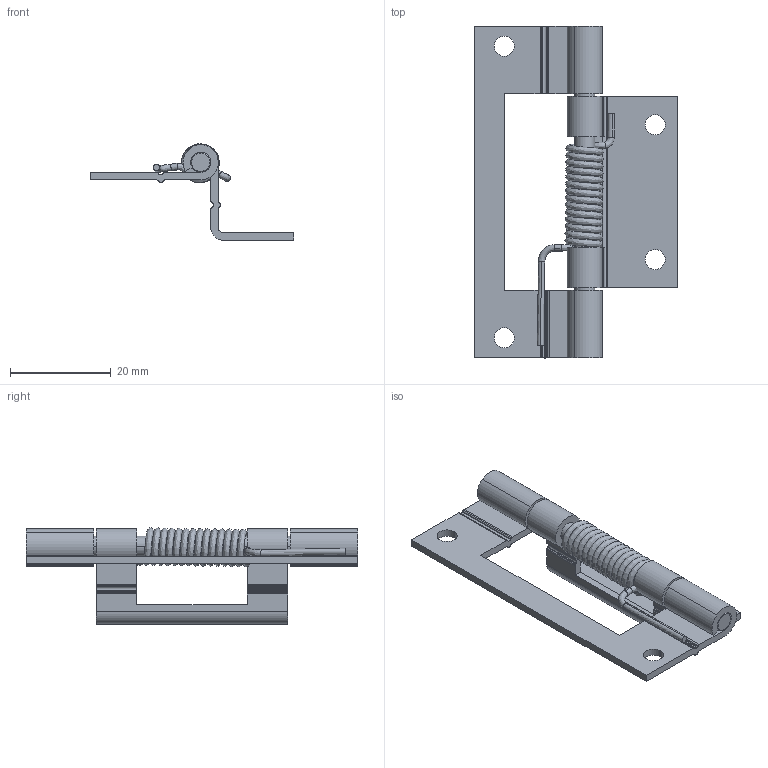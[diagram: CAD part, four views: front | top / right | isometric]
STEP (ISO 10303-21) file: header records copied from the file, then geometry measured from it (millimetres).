
FILE_DESCRIPTION((''),'2;1');
FILE_NAME('6167.stp','2013-08-14T16:57:04',(''),(''),'Mechanical Desktop 2006','Mechanical Desktop 2006',', , ');
FILE_SCHEMA(('CONFIG_CONTROL_DESIGN'));
Length unit declared in the file: millimetre
Products named in the file (5): 6167; TEIL1; TEIL3; TEIL2; TEIL4
Assembly tree (4 placements, depth 2):
  6167
    TEIL1
    TEIL3
    TEIL2
    TEIL4
Bounding box: 40.53 x 66 x 19.15 mm (x, y, z)
Volume: 4652.4 mm3; surface area: 7506.4 mm2
Topology: 4 solids, 4 shells, 146 faces, 402 edges, 264 vertices
Faces by surface type: cylinder 92, plane 35, bspline 17, cone 2
Entity records: 13154 total; most frequent: CARTESIAN_POINT 9149, DIRECTION 864, ORIENTED_EDGE 804, EDGE_CURVE 402, AXIS2_PLACEMENT_3D 338, VERTEX_POINT 264, CIRCLE 196, VECTOR 188
